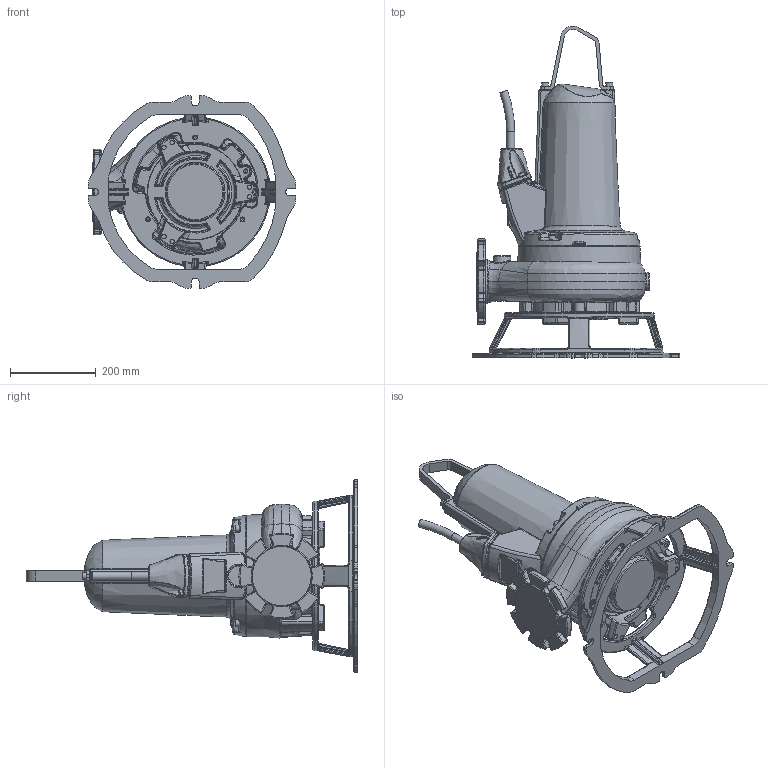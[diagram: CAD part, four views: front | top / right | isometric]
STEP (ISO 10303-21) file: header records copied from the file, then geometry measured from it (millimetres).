
FILE_DESCRIPTION (( 'STEP AP203' ), '1' );
FILE_NAME ('XFP80C-CB1_PE1_Wet_Transportable-.step', '2024-01-16T15:14:47', ( '' ), ( '' ), 'SwSTEP 2.0', 'SolidWorks 2017', '' );
FILE_SCHEMA (( 'CONFIG_CONTROL_DESIGN' ));
Products named in the file (2): XFP80C-CB1_PE1_Wet_Transportable-
Bounding box: 485 x 774.86 x 450 mm (x, y, z)
Volume: 24742470.3 mm3; surface area: 989250.5 mm2
Topology: 5 solids, 10 shells, 2201 faces, 5282 edges, 2972 vertices
Faces by surface type: bspline 810, cylinder 540, plane 363, torus 295, sphere 119, cone 74
Full cylindrical faces by diameter (mm): 6 x1, 6.8 x2, 8 x4, 8.5 x7, 9 x2, 10 x11, 10.5 x3, 11 x6, 13 x2, 16 x5, 18.7 x1, 138 x1, 222 x1, 350 x1
Entity records: 104430 total; most frequent: CARTESIAN_POINT 60688, ORIENTED_EDGE 9964, DIRECTION 7900, EDGE_CURVE 4982, AXIS2_PLACEMENT_3D 3325, VERTEX_POINT 2923, EDGE_LOOP 2361, FACE_OUTER_BOUND 2274
